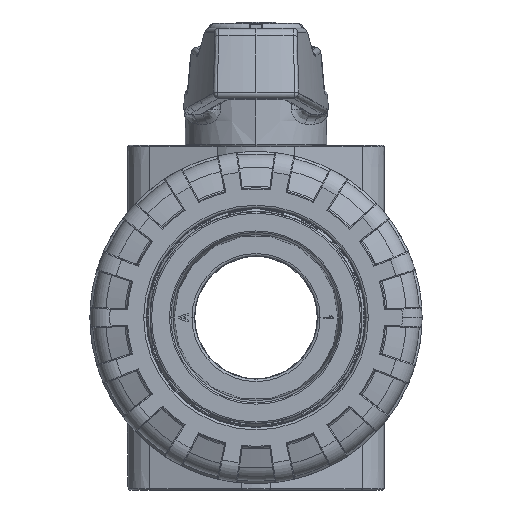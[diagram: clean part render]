
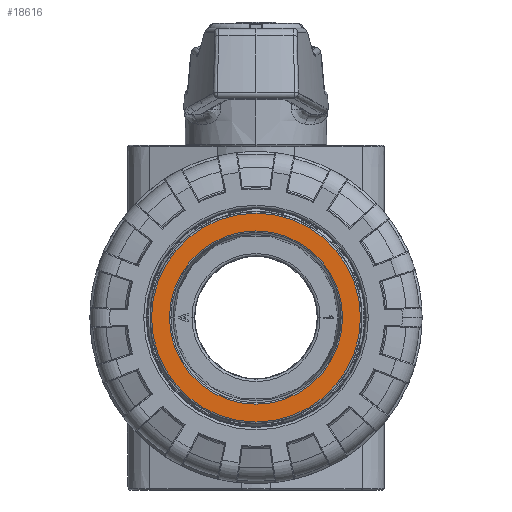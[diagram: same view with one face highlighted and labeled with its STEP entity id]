
A CAD part, left-side view. The second image highlights one B-rep face of the part: STEP entity #18616.
In plain terms, the highlighted planar face has unit normal (-1, 0, 0).
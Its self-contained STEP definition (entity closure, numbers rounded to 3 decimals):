
#1431 = EDGE_CURVE('',#1432,#1434,#1436,.T.);
#1432 = VERTEX_POINT('',#1433);
#1433 = CARTESIAN_POINT('',(-59.339,5.799,-21.214));
#1434 = VERTEX_POINT('',#1435);
#1435 = CARTESIAN_POINT('',(-59.339,4.414,-21.214));
#1436 = SURFACE_CURVE('',#1437,(#1442,#1454),.PCURVE_S1.);
#1437 = CIRCLE('',#1438,0.692);
#1438 = AXIS2_PLACEMENT_3D('',#1439,#1440,#1441);
#1439 = CARTESIAN_POINT('',(-59.339,5.106,-21.214));
#1440 = DIRECTION('',(1.,0.,0.));
#1441 = DIRECTION('',(0.,-1.,0.));
#1442 = PCURVE('',#1443,#1448);
#1443 = TOROIDAL_SURFACE('',#1444,0.692,0.012);
#1444 = AXIS2_PLACEMENT_3D('',#1445,#1446,#1447);
#1445 = CARTESIAN_POINT('',(-59.328,5.106,-21.214));
#1446 = DIRECTION('',(-1.,0.,0.));
#1447 = DIRECTION('',(-0.,-1.,0.));
#1448 = DEFINITIONAL_REPRESENTATION('',(#1449),#1453);
#1449 = LINE('',#1450,#1451);
#1450 = CARTESIAN_POINT('',(6.283,1.571));
#1451 = VECTOR('',#1452,1.);
#1452 = DIRECTION('',(-1.,0.));
#1453 = ( GEOMETRIC_REPRESENTATION_CONTEXT(2) 
PARAMETRIC_REPRESENTATION_CONTEXT() REPRESENTATION_CONTEXT('2D SPACE',''
  ) );
#1454 = PCURVE('',#1455,#1460);
#1455 = PLANE('',#1456);
#1456 = AXIS2_PLACEMENT_3D('',#1457,#1458,#1459);
#1457 = CARTESIAN_POINT('',(-59.339,5.106,-20.55));
#1458 = DIRECTION('',(-1.,0.,0.));
#1459 = DIRECTION('',(-0.,-1.,0.));
#1460 = DEFINITIONAL_REPRESENTATION('',(#1461),#1469);
#1461 = ( BOUNDED_CURVE() B_SPLINE_CURVE(2,(#1462,#1463,#1464,#1465,
#1466,#1467,#1468),.UNSPECIFIED.,.T.,.F.) B_SPLINE_CURVE_WITH_KNOTS((1,2
    ,2,2,2,1),(-2.094,0.,2.094,4.189,
6.283,8.378),.UNSPECIFIED.) CURVE() 
GEOMETRIC_REPRESENTATION_ITEM() RATIONAL_B_SPLINE_CURVE((1.,0.5,1.,0.5,
1.,0.5,1.)) REPRESENTATION_ITEM('') );
#1462 = CARTESIAN_POINT('',(0.692,-0.664));
#1463 = CARTESIAN_POINT('',(0.692,-1.864));
#1464 = CARTESIAN_POINT('',(-0.346,-1.264));
#1465 = CARTESIAN_POINT('',(-1.385,-0.664));
#1466 = CARTESIAN_POINT('',(-0.346,-0.065));
#1467 = CARTESIAN_POINT('',(0.692,0.535));
#1468 = CARTESIAN_POINT('',(0.692,-0.664));
#1469 = ( GEOMETRIC_REPRESENTATION_CONTEXT(2) 
PARAMETRIC_REPRESENTATION_CONTEXT() REPRESENTATION_CONTEXT('2D SPACE',''
  ) );
#1488 = TOROIDAL_SURFACE('',#1489,0.692,0.012);
#1489 = AXIS2_PLACEMENT_3D('',#1490,#1491,#1492);
#1490 = CARTESIAN_POINT('',(-59.328,5.106,-21.214));
#1491 = DIRECTION('',(-1.,0.,0.));
#1492 = DIRECTION('',(-0.,-1.,0.));
#1566 = TOROIDAL_SURFACE('',#1567,0.835,0.012);
#1567 = AXIS2_PLACEMENT_3D('',#1568,#1569,#1570);
#1568 = CARTESIAN_POINT('',(-59.328,5.106,-21.214));
#1569 = DIRECTION('',(-1.,0.,0.));
#1570 = DIRECTION('',(-0.,-1.,0.));
#1591 = VERTEX_POINT('',#1592);
#1592 = CARTESIAN_POINT('',(-59.339,5.942,-21.214));
#1607 = TOROIDAL_SURFACE('',#1608,0.835,0.012);
#1608 = AXIS2_PLACEMENT_3D('',#1609,#1610,#1611);
#1609 = CARTESIAN_POINT('',(-59.328,5.106,-21.214));
#1610 = DIRECTION('',(-1.,0.,0.));
#1611 = DIRECTION('',(-0.,-1.,0.));
#1619 = EDGE_CURVE('',#1620,#1591,#1622,.T.);
#1620 = VERTEX_POINT('',#1621);
#1621 = CARTESIAN_POINT('',(-59.339,4.271,-21.214));
#1622 = SURFACE_CURVE('',#1623,(#1628,#1635),.PCURVE_S1.);
#1623 = CIRCLE('',#1624,0.835);
#1624 = AXIS2_PLACEMENT_3D('',#1625,#1626,#1627);
#1625 = CARTESIAN_POINT('',(-59.339,5.106,-21.214));
#1626 = DIRECTION('',(-1.,0.,0.));
#1627 = DIRECTION('',(-0.,-1.,0.));
#1628 = PCURVE('',#1566,#1629);
#1629 = DEFINITIONAL_REPRESENTATION('',(#1630),#1634);
#1630 = LINE('',#1631,#1632);
#1631 = CARTESIAN_POINT('',(0.,1.571));
#1632 = VECTOR('',#1633,1.);
#1633 = DIRECTION('',(1.,0.));
#1634 = ( GEOMETRIC_REPRESENTATION_CONTEXT(2) 
PARAMETRIC_REPRESENTATION_CONTEXT() REPRESENTATION_CONTEXT('2D SPACE',''
  ) );
#1635 = PCURVE('',#1455,#1636);
#1636 = DEFINITIONAL_REPRESENTATION('',(#1637),#1641);
#1637 = CIRCLE('',#1638,0.835);
#1638 = AXIS2_PLACEMENT_2D('',#1639,#1640);
#1639 = CARTESIAN_POINT('',(0.,-0.664));
#1640 = DIRECTION('',(1.,0.));
#1641 = ( GEOMETRIC_REPRESENTATION_CONTEXT(2) 
PARAMETRIC_REPRESENTATION_CONTEXT() REPRESENTATION_CONTEXT('2D SPACE',''
  ) );
#18616 = ADVANCED_FACE('',(#18617,#18646),#1455,.T.);
#18617 = FACE_BOUND('',#18618,.T.);
#18618 = EDGE_LOOP('',(#18619,#18645));
#18619 = ORIENTED_EDGE('',*,*,#18620,.T.);
#18620 = EDGE_CURVE('',#1434,#1432,#18621,.T.);
#18621 = SURFACE_CURVE('',#18622,(#18627,#18638),.PCURVE_S1.);
#18622 = CIRCLE('',#18623,0.692);
#18623 = AXIS2_PLACEMENT_3D('',#18624,#18625,#18626);
#18624 = CARTESIAN_POINT('',(-59.339,5.106,-21.214));
#18625 = DIRECTION('',(1.,0.,0.));
#18626 = DIRECTION('',(0.,-1.,0.));
#18627 = PCURVE('',#1455,#18628);
#18628 = DEFINITIONAL_REPRESENTATION('',(#18629),#18637);
#18629 = ( BOUNDED_CURVE() B_SPLINE_CURVE(2,(#18630,#18631,#18632,#18633
    ,#18634,#18635,#18636),.UNSPECIFIED.,.T.,.F.) 
B_SPLINE_CURVE_WITH_KNOTS((1,2,2,2,2,1),(-2.094,0.,
    2.094,4.189,6.283,8.378),
.UNSPECIFIED.) CURVE() GEOMETRIC_REPRESENTATION_ITEM() 
RATIONAL_B_SPLINE_CURVE((1.,0.5,1.,0.5,1.,0.5,1.)) REPRESENTATION_ITEM(
  '') );
#18630 = CARTESIAN_POINT('',(0.692,-0.664));
#18631 = CARTESIAN_POINT('',(0.692,-1.864));
#18632 = CARTESIAN_POINT('',(-0.346,-1.264));
#18633 = CARTESIAN_POINT('',(-1.385,-0.664));
#18634 = CARTESIAN_POINT('',(-0.346,-0.065));
#18635 = CARTESIAN_POINT('',(0.692,0.535));
#18636 = CARTESIAN_POINT('',(0.692,-0.664));
#18637 = ( GEOMETRIC_REPRESENTATION_CONTEXT(2) 
PARAMETRIC_REPRESENTATION_CONTEXT() REPRESENTATION_CONTEXT('2D SPACE',''
  ) );
#18638 = PCURVE('',#1488,#18639);
#18639 = DEFINITIONAL_REPRESENTATION('',(#18640),#18644);
#18640 = LINE('',#18641,#18642);
#18641 = CARTESIAN_POINT('',(6.283,1.571));
#18642 = VECTOR('',#18643,1.);
#18643 = DIRECTION('',(-1.,0.));
#18644 = ( GEOMETRIC_REPRESENTATION_CONTEXT(2) 
PARAMETRIC_REPRESENTATION_CONTEXT() REPRESENTATION_CONTEXT('2D SPACE',''
  ) );
#18645 = ORIENTED_EDGE('',*,*,#1431,.T.);
#18646 = FACE_BOUND('',#18647,.T.);
#18647 = EDGE_LOOP('',(#18648,#18649));
#18648 = ORIENTED_EDGE('',*,*,#1619,.T.);
#18649 = ORIENTED_EDGE('',*,*,#18650,.T.);
#18650 = EDGE_CURVE('',#1591,#1620,#18651,.T.);
#18651 = SURFACE_CURVE('',#18652,(#18657,#18664),.PCURVE_S1.);
#18652 = CIRCLE('',#18653,0.835);
#18653 = AXIS2_PLACEMENT_3D('',#18654,#18655,#18656);
#18654 = CARTESIAN_POINT('',(-59.339,5.106,-21.214));
#18655 = DIRECTION('',(-1.,0.,0.));
#18656 = DIRECTION('',(-0.,-1.,0.));
#18657 = PCURVE('',#1455,#18658);
#18658 = DEFINITIONAL_REPRESENTATION('',(#18659),#18663);
#18659 = CIRCLE('',#18660,0.835);
#18660 = AXIS2_PLACEMENT_2D('',#18661,#18662);
#18661 = CARTESIAN_POINT('',(0.,-0.664));
#18662 = DIRECTION('',(1.,0.));
#18663 = ( GEOMETRIC_REPRESENTATION_CONTEXT(2) 
PARAMETRIC_REPRESENTATION_CONTEXT() REPRESENTATION_CONTEXT('2D SPACE',''
  ) );
#18664 = PCURVE('',#1607,#18665);
#18665 = DEFINITIONAL_REPRESENTATION('',(#18666),#18670);
#18666 = LINE('',#18667,#18668);
#18667 = CARTESIAN_POINT('',(0.,1.571));
#18668 = VECTOR('',#18669,1.);
#18669 = DIRECTION('',(1.,0.));
#18670 = ( GEOMETRIC_REPRESENTATION_CONTEXT(2) 
PARAMETRIC_REPRESENTATION_CONTEXT() REPRESENTATION_CONTEXT('2D SPACE',''
  ) );
